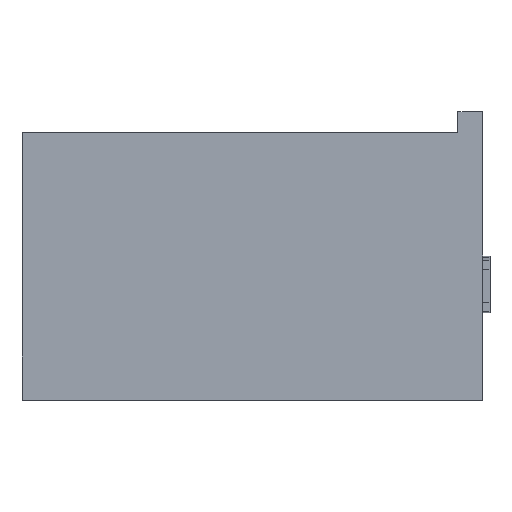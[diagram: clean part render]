
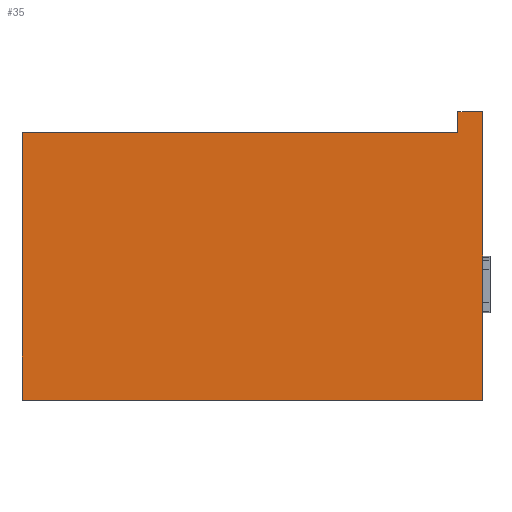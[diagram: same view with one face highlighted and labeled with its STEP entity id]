
A CAD part, left-side view. The second image highlights one B-rep face of the part: STEP entity #35.
In plain terms, the highlighted planar face has unit normal (-1, 0, 0).
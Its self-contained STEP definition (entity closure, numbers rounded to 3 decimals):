
#35 = ADVANCED_FACE('',(#36),#50,.F.);
#36 = FACE_BOUND('',#37,.F.);
#37 = EDGE_LOOP('',(#38,#73,#101,#129,#157,#185));
#38 = ORIENTED_EDGE('',*,*,#39,.F.);
#39 = EDGE_CURVE('',#40,#42,#44,.T.);
#40 = VERTEX_POINT('',#41);
#41 = CARTESIAN_POINT('',(-10.796,-3.,0.));
#42 = VERTEX_POINT('',#43);
#43 = CARTESIAN_POINT('',(-10.796,-3.,35.));
#44 = SURFACE_CURVE('',#45,(#49,#61),.PCURVE_S1.);
#45 = LINE('',#46,#47);
#46 = CARTESIAN_POINT('',(-10.796,-3.,0.));
#47 = VECTOR('',#48,1.);
#48 = DIRECTION('',(0.,0.,1.));
#49 = PCURVE('',#50,#55);
#50 = PLANE('',#51);
#51 = AXIS2_PLACEMENT_3D('',#52,#53,#54);
#52 = CARTESIAN_POINT('',(-10.796,-3.,0.));
#53 = DIRECTION('',(1.,0.,-0.));
#54 = DIRECTION('',(0.,0.,1.));
#55 = DEFINITIONAL_REPRESENTATION('',(#56),#60);
#56 = LINE('',#57,#58);
#57 = CARTESIAN_POINT('',(0.,0.));
#58 = VECTOR('',#59,1.);
#59 = DIRECTION('',(1.,0.));
#60 = ( GEOMETRIC_REPRESENTATION_CONTEXT(2) 
PARAMETRIC_REPRESENTATION_CONTEXT() REPRESENTATION_CONTEXT('2D SPACE',''
  ) );
#61 = PCURVE('',#62,#67);
#62 = PLANE('',#63);
#63 = AXIS2_PLACEMENT_3D('',#64,#65,#66);
#64 = CARTESIAN_POINT('',(-10.796,-3.,0.));
#65 = DIRECTION('',(-0.,1.,0.));
#66 = DIRECTION('',(0.,0.,1.));
#67 = DEFINITIONAL_REPRESENTATION('',(#68),#72);
#68 = LINE('',#69,#70);
#69 = CARTESIAN_POINT('',(0.,0.));
#70 = VECTOR('',#71,1.);
#71 = DIRECTION('',(1.,0.));
#72 = ( GEOMETRIC_REPRESENTATION_CONTEXT(2) 
PARAMETRIC_REPRESENTATION_CONTEXT() REPRESENTATION_CONTEXT('2D SPACE',''
  ) );
#73 = ORIENTED_EDGE('',*,*,#74,.F.);
#74 = EDGE_CURVE('',#75,#40,#77,.T.);
#75 = VERTEX_POINT('',#76);
#76 = CARTESIAN_POINT('',(-10.796,52.935,0.));
#77 = SURFACE_CURVE('',#78,(#82,#89),.PCURVE_S1.);
#78 = LINE('',#79,#80);
#79 = CARTESIAN_POINT('',(-10.796,52.935,0.));
#80 = VECTOR('',#81,1.);
#81 = DIRECTION('',(0.,-1.,0.));
#82 = PCURVE('',#50,#83);
#83 = DEFINITIONAL_REPRESENTATION('',(#84),#88);
#84 = LINE('',#85,#86);
#85 = CARTESIAN_POINT('',(0.,-55.935));
#86 = VECTOR('',#87,1.);
#87 = DIRECTION('',(0.,1.));
#88 = ( GEOMETRIC_REPRESENTATION_CONTEXT(2) 
PARAMETRIC_REPRESENTATION_CONTEXT() REPRESENTATION_CONTEXT('2D SPACE',''
  ) );
#89 = PCURVE('',#90,#95);
#90 = PLANE('',#91);
#91 = AXIS2_PLACEMENT_3D('',#92,#93,#94);
#92 = CARTESIAN_POINT('',(-10.796,-3.,0.));
#93 = DIRECTION('',(0.,0.,1.));
#94 = DIRECTION('',(1.,0.,-0.));
#95 = DEFINITIONAL_REPRESENTATION('',(#96),#100);
#96 = LINE('',#97,#98);
#97 = CARTESIAN_POINT('',(0.,55.935));
#98 = VECTOR('',#99,1.);
#99 = DIRECTION('',(0.,-1.));
#100 = ( GEOMETRIC_REPRESENTATION_CONTEXT(2) 
PARAMETRIC_REPRESENTATION_CONTEXT() REPRESENTATION_CONTEXT('2D SPACE',''
  ) );
#101 = ORIENTED_EDGE('',*,*,#102,.T.);
#102 = EDGE_CURVE('',#75,#103,#105,.T.);
#103 = VERTEX_POINT('',#104);
#104 = CARTESIAN_POINT('',(-10.796,52.935,32.5));
#105 = SURFACE_CURVE('',#106,(#110,#117),.PCURVE_S1.);
#106 = LINE('',#107,#108);
#107 = CARTESIAN_POINT('',(-10.796,52.935,0.));
#108 = VECTOR('',#109,1.);
#109 = DIRECTION('',(0.,0.,1.));
#110 = PCURVE('',#50,#111);
#111 = DEFINITIONAL_REPRESENTATION('',(#112),#116);
#112 = LINE('',#113,#114);
#113 = CARTESIAN_POINT('',(0.,-55.935));
#114 = VECTOR('',#115,1.);
#115 = DIRECTION('',(1.,0.));
#116 = ( GEOMETRIC_REPRESENTATION_CONTEXT(2) 
PARAMETRIC_REPRESENTATION_CONTEXT() REPRESENTATION_CONTEXT('2D SPACE',''
  ) );
#117 = PCURVE('',#118,#123);
#118 = PLANE('',#119);
#119 = AXIS2_PLACEMENT_3D('',#120,#121,#122);
#120 = CARTESIAN_POINT('',(-10.796,52.935,0.));
#121 = DIRECTION('',(-0.,1.,0.));
#122 = DIRECTION('',(0.,0.,1.));
#123 = DEFINITIONAL_REPRESENTATION('',(#124),#128);
#124 = LINE('',#125,#126);
#125 = CARTESIAN_POINT('',(0.,0.));
#126 = VECTOR('',#127,1.);
#127 = DIRECTION('',(1.,0.));
#128 = ( GEOMETRIC_REPRESENTATION_CONTEXT(2) 
PARAMETRIC_REPRESENTATION_CONTEXT() REPRESENTATION_CONTEXT('2D SPACE',''
  ) );
#129 = ORIENTED_EDGE('',*,*,#130,.F.);
#130 = EDGE_CURVE('',#131,#103,#133,.T.);
#131 = VERTEX_POINT('',#132);
#132 = CARTESIAN_POINT('',(-10.796,0.,32.5));
#133 = SURFACE_CURVE('',#134,(#138,#145),.PCURVE_S1.);
#134 = LINE('',#135,#136);
#135 = CARTESIAN_POINT('',(-10.796,0.,32.5));
#136 = VECTOR('',#137,1.);
#137 = DIRECTION('',(-0.,1.,0.));
#138 = PCURVE('',#50,#139);
#139 = DEFINITIONAL_REPRESENTATION('',(#140),#144);
#140 = LINE('',#141,#142);
#141 = CARTESIAN_POINT('',(32.5,-3.));
#142 = VECTOR('',#143,1.);
#143 = DIRECTION('',(0.,-1.));
#144 = ( GEOMETRIC_REPRESENTATION_CONTEXT(2) 
PARAMETRIC_REPRESENTATION_CONTEXT() REPRESENTATION_CONTEXT('2D SPACE',''
  ) );
#145 = PCURVE('',#146,#151);
#146 = PLANE('',#147);
#147 = AXIS2_PLACEMENT_3D('',#148,#149,#150);
#148 = CARTESIAN_POINT('',(-10.796,0.,32.5));
#149 = DIRECTION('',(0.,0.,1.));
#150 = DIRECTION('',(1.,0.,-0.));
#151 = DEFINITIONAL_REPRESENTATION('',(#152),#156);
#152 = LINE('',#153,#154);
#153 = CARTESIAN_POINT('',(0.,0.));
#154 = VECTOR('',#155,1.);
#155 = DIRECTION('',(0.,1.));
#156 = ( GEOMETRIC_REPRESENTATION_CONTEXT(2) 
PARAMETRIC_REPRESENTATION_CONTEXT() REPRESENTATION_CONTEXT('2D SPACE',''
  ) );
#157 = ORIENTED_EDGE('',*,*,#158,.T.);
#158 = EDGE_CURVE('',#131,#159,#161,.T.);
#159 = VERTEX_POINT('',#160);
#160 = CARTESIAN_POINT('',(-10.796,0.,35.));
#161 = SURFACE_CURVE('',#162,(#166,#173),.PCURVE_S1.);
#162 = LINE('',#163,#164);
#163 = CARTESIAN_POINT('',(-10.796,0.,0.));
#164 = VECTOR('',#165,1.);
#165 = DIRECTION('',(0.,0.,1.));
#166 = PCURVE('',#50,#167);
#167 = DEFINITIONAL_REPRESENTATION('',(#168),#172);
#168 = LINE('',#169,#170);
#169 = CARTESIAN_POINT('',(0.,-3.));
#170 = VECTOR('',#171,1.);
#171 = DIRECTION('',(1.,0.));
#172 = ( GEOMETRIC_REPRESENTATION_CONTEXT(2) 
PARAMETRIC_REPRESENTATION_CONTEXT() REPRESENTATION_CONTEXT('2D SPACE',''
  ) );
#173 = PCURVE('',#174,#179);
#174 = PLANE('',#175);
#175 = AXIS2_PLACEMENT_3D('',#176,#177,#178);
#176 = CARTESIAN_POINT('',(-10.796,0.,0.));
#177 = DIRECTION('',(-0.,1.,0.));
#178 = DIRECTION('',(0.,0.,1.));
#179 = DEFINITIONAL_REPRESENTATION('',(#180),#184);
#180 = LINE('',#181,#182);
#181 = CARTESIAN_POINT('',(0.,0.));
#182 = VECTOR('',#183,1.);
#183 = DIRECTION('',(1.,0.));
#184 = ( GEOMETRIC_REPRESENTATION_CONTEXT(2) 
PARAMETRIC_REPRESENTATION_CONTEXT() REPRESENTATION_CONTEXT('2D SPACE',''
  ) );
#185 = ORIENTED_EDGE('',*,*,#186,.F.);
#186 = EDGE_CURVE('',#42,#159,#187,.T.);
#187 = SURFACE_CURVE('',#188,(#192,#199),.PCURVE_S1.);
#188 = LINE('',#189,#190);
#189 = CARTESIAN_POINT('',(-10.796,-3.,35.));
#190 = VECTOR('',#191,1.);
#191 = DIRECTION('',(-0.,1.,0.));
#192 = PCURVE('',#50,#193);
#193 = DEFINITIONAL_REPRESENTATION('',(#194),#198);
#194 = LINE('',#195,#196);
#195 = CARTESIAN_POINT('',(35.,0.));
#196 = VECTOR('',#197,1.);
#197 = DIRECTION('',(0.,-1.));
#198 = ( GEOMETRIC_REPRESENTATION_CONTEXT(2) 
PARAMETRIC_REPRESENTATION_CONTEXT() REPRESENTATION_CONTEXT('2D SPACE',''
  ) );
#199 = PCURVE('',#200,#205);
#200 = PLANE('',#201);
#201 = AXIS2_PLACEMENT_3D('',#202,#203,#204);
#202 = CARTESIAN_POINT('',(-10.796,-3.,35.));
#203 = DIRECTION('',(0.,0.,1.));
#204 = DIRECTION('',(1.,0.,-0.));
#205 = DEFINITIONAL_REPRESENTATION('',(#206),#210);
#206 = LINE('',#207,#208);
#207 = CARTESIAN_POINT('',(0.,0.));
#208 = VECTOR('',#209,1.);
#209 = DIRECTION('',(0.,1.));
#210 = ( GEOMETRIC_REPRESENTATION_CONTEXT(2) 
PARAMETRIC_REPRESENTATION_CONTEXT() REPRESENTATION_CONTEXT('2D SPACE',''
  ) );
